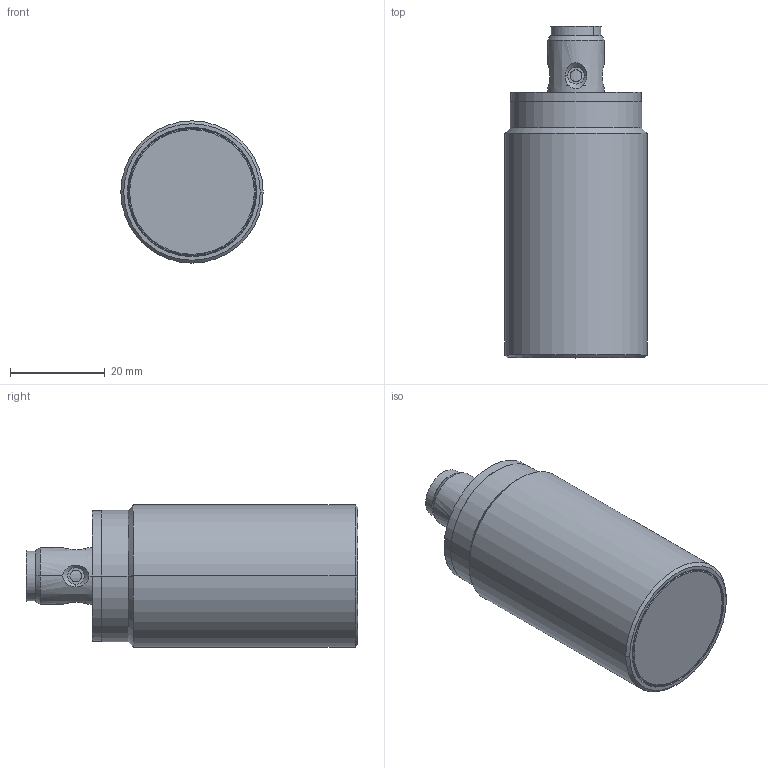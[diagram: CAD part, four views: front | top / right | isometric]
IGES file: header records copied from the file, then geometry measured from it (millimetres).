
Start section:  PTC IGES file: 2035628
Global section: file name: 2035628; native system: Creo Parametric by PTC Inc.; preprocessor: 2019292; author: s.mayer; organization: Unknown; date: 20240801.074158; units: millimetre
Bounding box: 30 x 70 x 30 mm (x, y, z)
Surface area: 8390.1 mm2 (no closed solid volume)
Topology: 0 solids, 0 shells, 211 faces, 1096 edges, 1070 vertices
Faces by surface type: revolution 129, bspline 82
